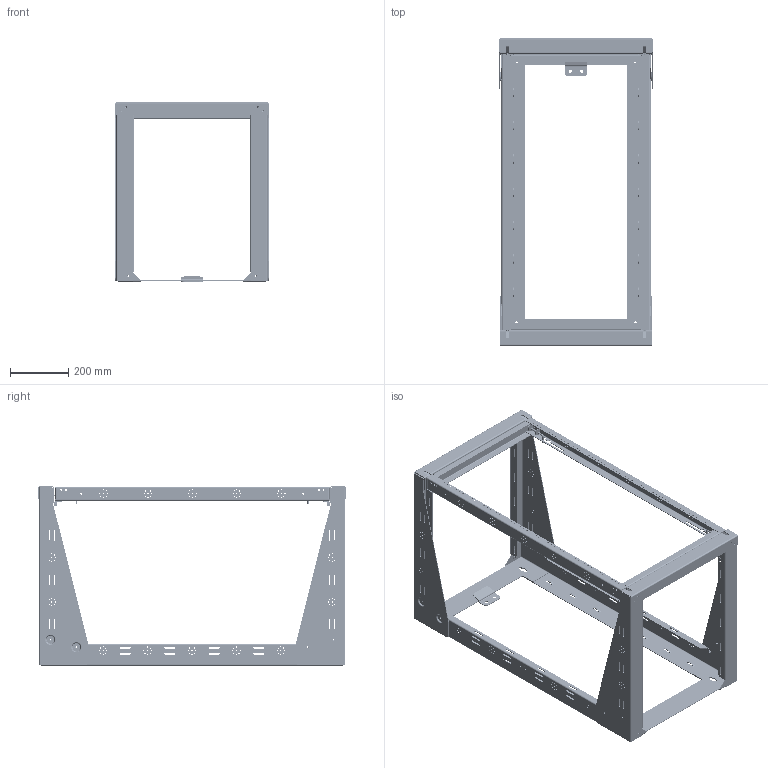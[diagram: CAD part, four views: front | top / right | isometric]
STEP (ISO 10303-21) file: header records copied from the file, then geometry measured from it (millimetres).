
FILE_DESCRIPTION (( 'STEP AP203' ), '1' );
FILE_NAME ('e19swm20u24.STEP', '2012-10-15T15:50:29', ( 'User' ), ( 'Pentair Inc' ), 'SwSTEP 2.0', 'SolidWorks 2010', '' );
FILE_SCHEMA (( 'CONFIG_CONTROL_DESIGN' ));
Length unit declared in the file: inch
Products named in the file (24): e19swm20u24; 89094705; 89094704; 89094703_Default<As Machined>; 89088132_Default<As Machined>; 89088073; 89088072; 89088071; 89088070; 89088069; 89092193; 89089985; 89089984; 89089987; 89089986; 89092514_PEM S-0420-2; 89094708; 89094707_NO HINGE; 89088075; 89094706; 89090814; 89090813; 87800103_87800103; 87800105_87800105
Assembly tree (51 placements, depth 4):
  e19swm20u24
    89094705
      89088132_Default<As Machined>  x2
      89094704  x2
        89092514_PEM S-0420-2
        89094703_Default<As Machined>
    89089985  x2
      89092514_PEM S-0420-2
      89089984
    89088072
    89089987  x2
      89092514_PEM S-0420-2
      89089986
    89094708
      89094707_NO HINGE
        89090814  x4
        89088075  x2
        89094706  x2
      87800105_87800105  x4
      89090813  x4
      87800103_87800103  x4
    89088073  x2
    89088069
    89088070
    89092193
    89088071
Bounding box: 528.98 x 1054.3 x 615.37 mm (x, y, z)
Volume: 3562607.7 mm3; surface area: 3003890.2 mm2
Topology: 55 solids, 55 shells, 5026 faces, 13536 edges, 8708 vertices
Faces by surface type: plane 2858, cylinder 1816, cone 176, torus 136, bspline 40
Entity records: 68203 total; most frequent: CARTESIAN_POINT 15437, DIRECTION 10775, ORIENTED_EDGE 9898, EDGE_CURVE 4949, AXIS2_PLACEMENT_3D 3970, VERTEX_POINT 3174, LINE 2835, VECTOR 2835
